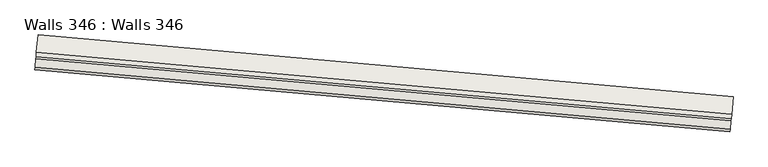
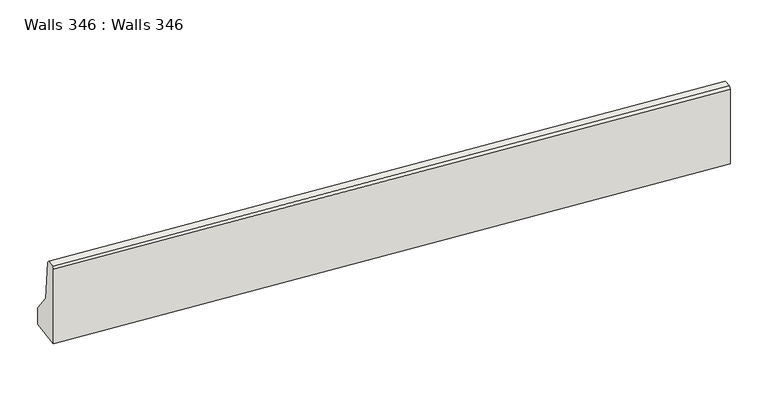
"""IFC4 building model written with IfcOpenShell, lengths in millimetres: wall geometry, Walls 346 : Walls 346."""

from ifc_helpers import new_model, si_unit, frame, origin, place, context, project, spatial, polyline, outline, extrude, source, transform, mapped, element, save


def walls_346_walls_346_de92916c(model_context):
    return source(origin(), model_context, "Body", "SweptSolid", [
        extrude(outline(polyline([(637180.0, 400.0), (637430.0, 199.9999999), (637935.0, 150.0), (637960.0, 125.0), (637960.0, 24.9999999), (637935.0, 0.0), (636960.0, 0.0), (636960.0, 400.0), (637180.0, 400.0)])), frame((-758337.7547759, -411521.122712, 0.0), z_axis=(-0.9960550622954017, 0.08873732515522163, 0.0), x_axis=(0.0, 0.0, 1.0)), (0.0, 0.0, 1.0), 7999.9999999),
    ])


if __name__ == "__main__":
    model = new_model("IFC4")
    model_context = context("Model", 3, world=origin())
    ifc_project = project(units=[si_unit("LENGTHUNIT", "METRE", prefix="MILLI")], contexts=[model_context])
    site = spatial("IfcSite", under=ifc_project)
    building = spatial("IfcBuilding", under=site)
    placement = place(None, origin())
    walls_346_walls_346_shape = walls_346_walls_346_de92916c(model_context)
    element("IfcWall", 1, ObjectType="Walls 346 : Walls 346", at=placement, inside=building, context=model_context, shape_type="MappedRepresentation", body=[
        mapped(walls_346_walls_346_shape, transform((0.0, 0.0, 0.0), x_axis=(1.0, 0.0, 0.0), y_axis=(0.0, 1.0, 0.0), z_axis=(0.0, 0.0, 1.0))),
    ])
    save(model, "model.ifc")
